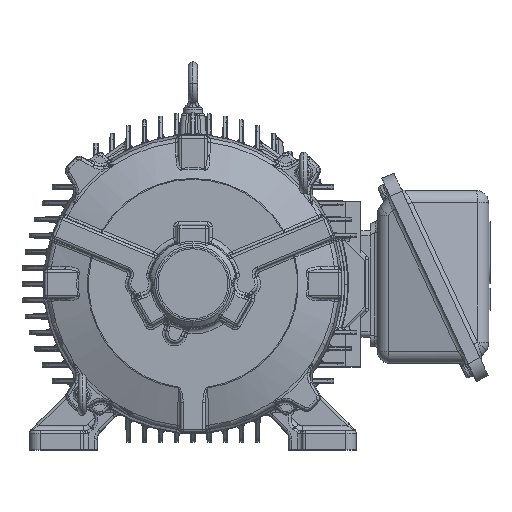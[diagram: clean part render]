
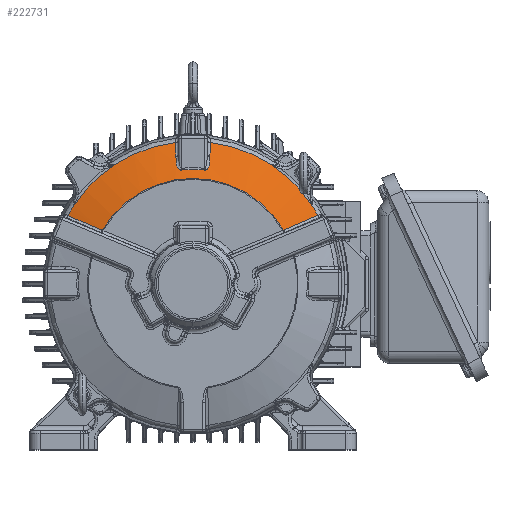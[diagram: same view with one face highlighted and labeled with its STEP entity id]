
A CAD part, top view. The second image highlights one B-rep face of the part: STEP entity #222731.
In plain terms, the highlighted conical face has half-angle 70 degrees and reference radius 151.882 mm.
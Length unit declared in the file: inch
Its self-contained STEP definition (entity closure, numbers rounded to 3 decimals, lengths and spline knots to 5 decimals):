
#212050=CARTESIAN_POINT('',(6.03202,3.29583,
-0.90121));
#212051=CARTESIAN_POINT('',(5.87864,3.22876,
-0.96191));
#212052=CARTESIAN_POINT('',(5.57818,3.09734,
-1.08078));
#212053=CARTESIAN_POINT('',(5.13997,2.90564,
-1.25403));
#212054=CARTESIAN_POINT('',(4.73339,2.72772,
-1.41466));
#212055=CARTESIAN_POINT('',(4.49619,2.62389,
-1.50828));
#212056=CARTESIAN_POINT('',(4.38498,2.5752,
-1.55216));
#212058=CARTESIAN_POINT('',(0.,0.,-0.90121));
#212059=DIRECTION('',(0.,0.,-1.));
#212060=DIRECTION('',(0.836,0.549,0.));
#212061=AXIS2_PLACEMENT_3D('',#212058,#212059,#212060);
#212063=CARTESIAN_POINT('',(0.,0.,-0.90111));
#212064=DIRECTION('',(0.,0.,1.));
#212065=DIRECTION('',(0.836,0.549,0.));
#212066=AXIS2_PLACEMENT_3D('',#212063,#212064,#212065);
#212068=CARTESIAN_POINT('',(0.,0.,-0.90121));
#212069=DIRECTION('',(0.,0.,-1.));
#212070=DIRECTION('',(0.121,0.993,0.));
#212071=AXIS2_PLACEMENT_3D('',#212068,#212069,#212070);
#212073=CARTESIAN_POINT('',(0.83348,6.82298,
-0.90121));
#212074=CARTESIAN_POINT('',(0.83127,6.71081,
-0.94184));
#212075=CARTESIAN_POINT('',(0.82689,6.48802,
-1.0225));
#212076=CARTESIAN_POINT('',(0.82256,6.26833,
-1.10199));
#212077=CARTESIAN_POINT('',(0.82041,6.15927,
-1.14145));
#212079=CARTESIAN_POINT('',(0.82041,6.15927,
-1.14145));
#212080=CARTESIAN_POINT('',(0.81958,6.11719,
-1.15667));
#212081=CARTESIAN_POINT('',(0.82127,6.03685,
-1.18557));
#212082=CARTESIAN_POINT('',(0.81778,5.92866,
-1.22475));
#212083=CARTESIAN_POINT('',(0.80725,5.83101,
-1.26048));
#212084=CARTESIAN_POINT('',(0.78954,5.74389,
-1.29277));
#212085=CARTESIAN_POINT('',(0.76506,5.66733,
-1.32159));
#212086=CARTESIAN_POINT('',(0.73401,5.6018,
-1.34673));
#212087=CARTESIAN_POINT('',(0.6965,5.54834,
-1.36777));
#212088=CARTESIAN_POINT('',(0.65235,5.50964,
-1.38371));
#212089=CARTESIAN_POINT('',(0.60423,5.48895,
-1.39318));
#212090=CARTESIAN_POINT('',(0.57349,5.48696,
-1.39508));
#212091=CARTESIAN_POINT('',(0.55799,5.48853,
-1.39508));
#212093=CARTESIAN_POINT('',(0.,0.,-1.39508));
#212094=DIRECTION('',(0.,0.,1.));
#212095=DIRECTION('',(0.101,0.995,0.));
#212096=AXIS2_PLACEMENT_3D('',#212093,#212094,#212095);
#212098=CARTESIAN_POINT('',(-0.55799,5.48853,
-1.39508));
#212099=CARTESIAN_POINT('',(-0.57352,5.48695,
-1.39508));
#212100=CARTESIAN_POINT('',(-0.60431,5.48896,
-1.39317));
#212101=CARTESIAN_POINT('',(-0.65251,5.50973,
-1.38367));
#212102=CARTESIAN_POINT('',(-0.69671,5.54856,
-1.36768));
#212103=CARTESIAN_POINT('',(-0.73424,5.60219,
-1.34657));
#212104=CARTESIAN_POINT('',(-0.76529,5.66791,
-1.32137));
#212105=CARTESIAN_POINT('',(-0.78975,5.7447,
-1.29247));
#212106=CARTESIAN_POINT('',(-0.80742,5.83206,
-1.26009));
#212107=CARTESIAN_POINT('',(-0.81788,5.93001,
-1.22426));
#212108=CARTESIAN_POINT('',(-0.82125,6.03851,
-1.18497));
#212109=CARTESIAN_POINT('',(-0.81959,6.11788,
-1.15642));
#212110=CARTESIAN_POINT('',(-0.82041,6.15926,
-1.14145));
#212112=CARTESIAN_POINT('',(-0.82041,6.15926,
-1.14145));
#212113=CARTESIAN_POINT('',(-0.82237,6.25852,
-1.10555));
#212114=CARTESIAN_POINT('',(-0.82651,6.46837,
-1.02961));
#212115=CARTESIAN_POINT('',(-0.83108,6.70099,
-0.94539));
#212116=CARTESIAN_POINT('',(-0.83348,6.82298,
-0.90121));
#212118=CARTESIAN_POINT('',(0.,0.,-0.90121));
#212119=DIRECTION('',(0.,0.,-1.));
#212120=DIRECTION('',(-0.549,0.836,0.));
#212121=AXIS2_PLACEMENT_3D('',#212118,#212119,#212120);
#212123=CARTESIAN_POINT('',(0.,0.,-0.90111));
#212124=DIRECTION('',(0.,0.,1.));
#212125=DIRECTION('',(-0.549,0.836,0.));
#212126=AXIS2_PLACEMENT_3D('',#212123,#212124,#212125);
#212128=CARTESIAN_POINT('',(0.,0.,-0.90121));
#212129=DIRECTION('',(0.,0.,-1.));
#212130=DIRECTION('',(-0.877,0.481,0.));
#212131=AXIS2_PLACEMENT_3D('',#212128,#212129,#212130);
#212133=CARTESIAN_POINT('',(-4.3799,2.58383,
-1.55216));
#212134=CARTESIAN_POINT('',(-4.51774,2.64418,
-1.49779));
#212135=CARTESIAN_POINT('',(-4.78217,2.75992,
-1.39342));
#212136=CARTESIAN_POINT('',(-5.14453,2.91849,
-1.25027));
#212137=CARTESIAN_POINT('',(-5.47342,3.06237,
-1.12027));
#212138=CARTESIAN_POINT('',(-5.76922,3.19176,
-1.00329));
#212139=CARTESIAN_POINT('',(-5.94485,3.26857,
-0.93381));
#212140=CARTESIAN_POINT('',(-6.02722,3.3046,
-0.90121));
#212142=CARTESIAN_POINT('',(0.,0.,-1.55216));
#212143=DIRECTION('',(0.,0.,1.));
#212144=DIRECTION('',(0.862,0.506,0.));
#212145=AXIS2_PLACEMENT_3D('',#212142,#212143,#212144);
#212969=CARTESIAN_POINT('',(-0.55799,5.48853,
-1.39508));
#212976=CARTESIAN_POINT('',(0.55799,5.48853,
-1.39508));
#215877=CARTESIAN_POINT('',(6.03202,3.29583,
-0.90121));
#216575=CARTESIAN_POINT('',(-6.02722,3.3046,
-0.90121));
#217661=CARTESIAN_POINT('',(-3.7754,5.7444,
-0.90111));
#217662=CARTESIAN_POINT('',(-5.7444,3.7754,
-0.90111));
#217663=VERTEX_POINT('',#217661);
#217664=VERTEX_POINT('',#217662);
#217669=CARTESIAN_POINT('',(5.7444,3.7754,
-0.90111));
#217670=CARTESIAN_POINT('',(3.7754,5.7444,
-0.90111));
#217671=VERTEX_POINT('',#217669);
#217672=VERTEX_POINT('',#217670);
#217703=CARTESIAN_POINT('',(0.83348,6.82298,
-0.90121));
#217705=VERTEX_POINT('',#217703);
#217733=CARTESIAN_POINT('',(-0.82041,6.15927,
-1.14145));
#217734=VERTEX_POINT('',#217733);
#217736=VERTEX_POINT('',#212969);
#217754=VERTEX_POINT('',#212976);
#217755=CARTESIAN_POINT('',(0.82041,6.15927,
-1.14145));
#217756=VERTEX_POINT('',#217755);
#217870=VERTEX_POINT('',#212116);
#218208=VERTEX_POINT('',#215877);
#218210=VERTEX_POINT('',#212056);
#218255=VERTEX_POINT('',#216575);
#218257=VERTEX_POINT('',#212133);
#222696=CARTESIAN_POINT('',(0.,0.,-1.22663));
#222697=DIRECTION('',(0.,0.,1.));
#222698=DIRECTION('',(0.,1.,0.));
#222699=AXIS2_PLACEMENT_3D('',#222696,#222697,#222698);
#222700=CONICAL_SURFACE('',#222699,5.97963,70.);
#222702=ORIENTED_EDGE('',*,*,#222701,.F.);
#222704=ORIENTED_EDGE('',*,*,#222703,.F.);
#222706=ORIENTED_EDGE('',*,*,#222705,.T.);
#222708=ORIENTED_EDGE('',*,*,#222707,.F.);
#222710=ORIENTED_EDGE('',*,*,#222709,.T.);
#222712=ORIENTED_EDGE('',*,*,#222711,.T.);
#222714=ORIENTED_EDGE('',*,*,#222713,.T.);
#222716=ORIENTED_EDGE('',*,*,#222715,.T.);
#222718=ORIENTED_EDGE('',*,*,#222717,.T.);
#222720=ORIENTED_EDGE('',*,*,#222719,.F.);
#222722=ORIENTED_EDGE('',*,*,#222721,.T.);
#222724=ORIENTED_EDGE('',*,*,#222723,.F.);
#222726=ORIENTED_EDGE('',*,*,#222725,.F.);
#222728=ORIENTED_EDGE('',*,*,#222727,.F.);
#222729=EDGE_LOOP('',(#222702,#222704,#222706,#222708,#222710,#222712,#222714,
#222716,#222718,#222720,#222722,#222724,#222726,#222728));
#222730=FACE_OUTER_BOUND('',#222729,.F.);
#222731=ADVANCED_FACE('',(#222730),#222700,.T.);
#212057=B_SPLINE_CURVE_WITH_KNOTS('',3,(#212050,#212051,#212052,#212053,#212054,
#212055,#212056),.UNSPECIFIED.,.F.,.F.,(4,1,1,1,4),(0.,0.25,0.5,0.75,
1.),.UNSPECIFIED.);
#212062=CIRCLE('',#212061,6.8737);
#212067=CIRCLE('',#212066,6.87399);
#212072=CIRCLE('',#212071,6.8737);
#212078=B_SPLINE_CURVE_WITH_KNOTS('',3,(#212073,#212074,#212075,#212076,
#212077),.UNSPECIFIED.,.F.,.F.,(4,1,4),(0.,0.5,1.),.UNSPECIFIED.);
#212092=B_SPLINE_CURVE_WITH_KNOTS('',3,(#212079,#212080,#212081,#212082,#212083,
#212084,#212085,#212086,#212087,#212088,#212089,#212090,#212091),.UNSPECIFIED.,
.F.,.F.,(4,1,1,1,1,1,1,1,1,1,4),(0.,0.1,0.2,0.3,0.4,0.5,0.6,0.7,
0.8,0.9,1.),.UNSPECIFIED.);
#212097=CIRCLE('',#212096,5.51682);
#212111=B_SPLINE_CURVE_WITH_KNOTS('',3,(#212098,#212099,#212100,#212101,#212102,
#212103,#212104,#212105,#212106,#212107,#212108,#212109,#212110),.UNSPECIFIED.,
.F.,.F.,(4,1,1,1,1,1,1,1,1,1,4),(0.,0.1,0.2,0.3,0.4,0.5,0.6,0.7,
0.8,0.9,1.),.UNSPECIFIED.);
#212117=B_SPLINE_CURVE_WITH_KNOTS('',3,(#212112,#212113,#212114,#212115,
#212116),.UNSPECIFIED.,.F.,.F.,(4,1,4),(0.,0.5,1.),.UNSPECIFIED.);
#212122=CIRCLE('',#212121,6.8737);
#212127=CIRCLE('',#212126,6.87399);
#212132=CIRCLE('',#212131,6.8737);
#212141=B_SPLINE_CURVE_WITH_KNOTS('',3,(#212133,#212134,#212135,#212136,#212137,
#212138,#212139,#212140),.UNSPECIFIED.,.F.,.F.,(4,1,1,1,1,4),(0.,0.2,0.4,
0.6,0.8,1.),.UNSPECIFIED.);
#212146=CIRCLE('',#212145,5.08524);
#222701=EDGE_CURVE('',#218208,#218210,#212057,.T.);
#222703=EDGE_CURVE('',#217671,#218208,#212062,.T.);
#222705=EDGE_CURVE('',#217671,#217672,#212067,.T.);
#222707=EDGE_CURVE('',#217705,#217672,#212072,.T.);
#222709=EDGE_CURVE('',#217705,#217756,#212078,.T.);
#222711=EDGE_CURVE('',#217756,#217754,#212092,.T.);
#222713=EDGE_CURVE('',#217754,#217736,#212097,.T.);
#222715=EDGE_CURVE('',#217736,#217734,#212111,.T.);
#222717=EDGE_CURVE('',#217734,#217870,#212117,.T.);
#222719=EDGE_CURVE('',#217663,#217870,#212122,.T.);
#222721=EDGE_CURVE('',#217663,#217664,#212127,.T.);
#222723=EDGE_CURVE('',#218255,#217664,#212132,.T.);
#222725=EDGE_CURVE('',#218257,#218255,#212141,.T.);
#222727=EDGE_CURVE('',#218210,#218257,#212146,.T.);
